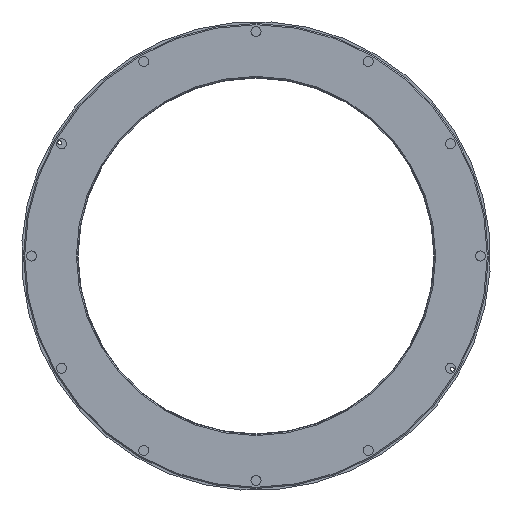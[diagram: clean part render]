
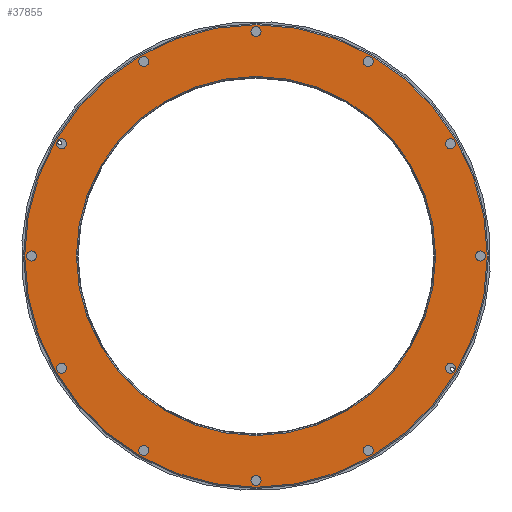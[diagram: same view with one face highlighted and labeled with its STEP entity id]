
A CAD part, left-side view. The second image highlights one B-rep face of the part: STEP entity #37855.
In plain terms, the highlighted planar face has unit normal (-1, 0, 0).
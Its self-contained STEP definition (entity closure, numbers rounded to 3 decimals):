
#33816=PLANE('',#101791);
#37855=ADVANCED_FACE('',(#44442,#44443,#44444,#44445,#44446,#44447,#44448,
#44449,#44450,#44451,#44452,#44453,#44454,#44455),#33816,.T.);
#44442=FACE_BOUND('',#45005,.T.);
#44443=FACE_BOUND('',#45006,.T.);
#44444=FACE_BOUND('',#45007,.T.);
#44445=FACE_BOUND('',#45008,.T.);
#44446=FACE_BOUND('',#45009,.T.);
#44447=FACE_BOUND('',#45010,.T.);
#44448=FACE_BOUND('',#45011,.T.);
#44449=FACE_BOUND('',#45012,.T.);
#44450=FACE_BOUND('',#45013,.T.);
#44451=FACE_BOUND('',#45014,.T.);
#44452=FACE_BOUND('',#45015,.T.);
#44453=FACE_BOUND('',#45016,.T.);
#44454=FACE_BOUND('',#45017,.T.);
#44455=FACE_BOUND('',#45018,.T.);
#45005=EDGE_LOOP('',(#50901));
#45006=EDGE_LOOP('',(#50902));
#45007=EDGE_LOOP('',(#50903));
#45008=EDGE_LOOP('',(#50904));
#45009=EDGE_LOOP('',(#50905));
#45010=EDGE_LOOP('',(#50906));
#45011=EDGE_LOOP('',(#50907));
#45012=EDGE_LOOP('',(#50908));
#45013=EDGE_LOOP('',(#50909));
#45014=EDGE_LOOP('',(#50910));
#45015=EDGE_LOOP('',(#50911));
#45016=EDGE_LOOP('',(#50912));
#45017=EDGE_LOOP('',(#50913));
#45018=EDGE_LOOP('',(#50914));
#50901=ORIENTED_EDGE('',*,*,#86253,.T.);
#50902=ORIENTED_EDGE('',*,*,#86254,.T.);
#50903=ORIENTED_EDGE('',*,*,#86255,.T.);
#50904=ORIENTED_EDGE('',*,*,#86256,.T.);
#50905=ORIENTED_EDGE('',*,*,#86257,.T.);
#50906=ORIENTED_EDGE('',*,*,#86258,.T.);
#50907=ORIENTED_EDGE('',*,*,#86259,.T.);
#50908=ORIENTED_EDGE('',*,*,#86260,.T.);
#50909=ORIENTED_EDGE('',*,*,#86261,.T.);
#50910=ORIENTED_EDGE('',*,*,#86262,.T.);
#50911=ORIENTED_EDGE('',*,*,#86263,.T.);
#50912=ORIENTED_EDGE('',*,*,#86264,.T.);
#50913=ORIENTED_EDGE('',*,*,#86265,.T.);
#50914=ORIENTED_EDGE('',*,*,#86252,.T.);
#77580=VERTEX_POINT('',#135179);
#77581=VERTEX_POINT('',#135182);
#77582=VERTEX_POINT('',#135184);
#77583=VERTEX_POINT('',#135186);
#77584=VERTEX_POINT('',#135188);
#77585=VERTEX_POINT('',#135190);
#77586=VERTEX_POINT('',#135192);
#77587=VERTEX_POINT('',#135194);
#77588=VERTEX_POINT('',#135196);
#77589=VERTEX_POINT('',#135198);
#77590=VERTEX_POINT('',#135200);
#77591=VERTEX_POINT('',#135202);
#77592=VERTEX_POINT('',#135204);
#77593=VERTEX_POINT('',#135206);
#86252=EDGE_CURVE('',#77580,#77580,#99594,.T.);
#86253=EDGE_CURVE('',#77581,#77581,#99595,.T.);
#86254=EDGE_CURVE('',#77582,#77582,#99596,.T.);
#86255=EDGE_CURVE('',#77583,#77583,#99597,.T.);
#86256=EDGE_CURVE('',#77584,#77584,#99598,.T.);
#86257=EDGE_CURVE('',#77585,#77585,#99599,.T.);
#86258=EDGE_CURVE('',#77586,#77586,#99600,.T.);
#86259=EDGE_CURVE('',#77587,#77587,#99601,.T.);
#86260=EDGE_CURVE('',#77588,#77588,#99602,.T.);
#86261=EDGE_CURVE('',#77589,#77589,#99603,.T.);
#86262=EDGE_CURVE('',#77590,#77590,#99604,.T.);
#86263=EDGE_CURVE('',#77591,#77591,#99605,.T.);
#86264=EDGE_CURVE('',#77592,#77592,#99606,.T.);
#86265=EDGE_CURVE('',#77593,#77593,#99607,.T.);
#99594=CIRCLE('',#101776,44.8);
#99595=CIRCLE('',#101778,57.7);
#99596=CIRCLE('',#101779,1.25);
#99597=CIRCLE('',#101780,1.25);
#99598=CIRCLE('',#101781,1.25);
#99599=CIRCLE('',#101782,1.25);
#99600=CIRCLE('',#101783,1.25);
#99601=CIRCLE('',#101784,1.25);
#99602=CIRCLE('',#101785,1.25);
#99603=CIRCLE('',#101786,1.25);
#99604=CIRCLE('',#101787,1.25);
#99605=CIRCLE('',#101788,1.25);
#99606=CIRCLE('',#101789,1.25);
#99607=CIRCLE('',#101790,1.25);
#101776=AXIS2_PLACEMENT_3D('',#135178,#109348,#109349);
#101778=AXIS2_PLACEMENT_3D('',#135181,#109352,#109353);
#101779=AXIS2_PLACEMENT_3D('',#135183,#109354,#109355);
#101780=AXIS2_PLACEMENT_3D('',#135185,#109356,#109357);
#101781=AXIS2_PLACEMENT_3D('',#135187,#109358,#109359);
#101782=AXIS2_PLACEMENT_3D('',#135189,#109360,#109361);
#101783=AXIS2_PLACEMENT_3D('',#135191,#109362,#109363);
#101784=AXIS2_PLACEMENT_3D('',#135193,#109364,#109365);
#101785=AXIS2_PLACEMENT_3D('',#135195,#109366,#109367);
#101786=AXIS2_PLACEMENT_3D('',#135197,#109368,#109369);
#101787=AXIS2_PLACEMENT_3D('',#135199,#109370,#109371);
#101788=AXIS2_PLACEMENT_3D('',#135201,#109372,#109373);
#101789=AXIS2_PLACEMENT_3D('',#135203,#109374,#109375);
#101790=AXIS2_PLACEMENT_3D('',#135205,#109376,#109377);
#101791=AXIS2_PLACEMENT_3D('',#135207,#109378,#109379);
#109348=DIRECTION('',(1.,0.,0.));
#109349=DIRECTION('',(0.,0.,-1.));
#109352=DIRECTION('',(-1.,0.,0.));
#109353=DIRECTION('',(0.,0.,1.));
#109354=DIRECTION('',(1.,0.,0.));
#109355=DIRECTION('',(0.,1.,0.));
#109356=DIRECTION('',(1.,0.,0.));
#109357=DIRECTION('',(0.,0.866,0.5));
#109358=DIRECTION('',(1.,0.,0.));
#109359=DIRECTION('',(0.,0.5,0.866));
#109360=DIRECTION('',(1.,0.,0.));
#109361=DIRECTION('',(0.,0.,1.));
#109362=DIRECTION('',(1.,0.,0.));
#109363=DIRECTION('',(0.,-0.5,0.866));
#109364=DIRECTION('',(1.,0.,0.));
#109365=DIRECTION('',(0.,-0.866,0.5));
#109366=DIRECTION('',(1.,0.,0.));
#109367=DIRECTION('',(0.,-1.,0.));
#109368=DIRECTION('',(1.,0.,0.));
#109369=DIRECTION('',(0.,-0.866,-0.5));
#109370=DIRECTION('',(1.,0.,0.));
#109371=DIRECTION('',(0.,-0.5,-0.866));
#109372=DIRECTION('',(1.,0.,0.));
#109373=DIRECTION('',(0.,0.,-1.));
#109374=DIRECTION('',(1.,0.,0.));
#109375=DIRECTION('',(0.,0.5,-0.866));
#109376=DIRECTION('',(1.,0.,0.));
#109377=DIRECTION('',(0.,0.866,-0.5));
#109378=DIRECTION('',(-1.,0.,0.));
#109379=DIRECTION('',(0.,0.,1.));
#135178=CARTESIAN_POINT('',(22.7,0.,0.));
#135179=CARTESIAN_POINT('',(22.7,0.,-44.8));
#135181=CARTESIAN_POINT('',(22.7,0.,0.));
#135182=CARTESIAN_POINT('',(22.7,0.,57.7));
#135183=CARTESIAN_POINT('',(22.7,-56.,0.));
#135184=CARTESIAN_POINT('',(22.7,-54.75,0.));
#135185=CARTESIAN_POINT('',(22.7,-48.497,-28.));
#135186=CARTESIAN_POINT('',(22.7,-47.415,-27.375));
#135187=CARTESIAN_POINT('',(22.7,-28.,-48.497));
#135188=CARTESIAN_POINT('',(22.7,-27.375,-47.415));
#135189=CARTESIAN_POINT('',(22.7,0.,-56.));
#135190=CARTESIAN_POINT('',(22.7,0.,-54.75));
#135191=CARTESIAN_POINT('',(22.7,28.,-48.497));
#135192=CARTESIAN_POINT('',(22.7,27.375,-47.415));
#135193=CARTESIAN_POINT('',(22.7,48.497,-28.));
#135194=CARTESIAN_POINT('',(22.7,47.415,-27.375));
#135195=CARTESIAN_POINT('',(22.7,56.,0.));
#135196=CARTESIAN_POINT('',(22.7,54.75,0.));
#135197=CARTESIAN_POINT('',(22.7,48.497,28.));
#135198=CARTESIAN_POINT('',(22.7,47.415,27.375));
#135199=CARTESIAN_POINT('',(22.7,28.,48.497));
#135200=CARTESIAN_POINT('',(22.7,27.375,47.415));
#135201=CARTESIAN_POINT('',(22.7,0.,56.));
#135202=CARTESIAN_POINT('',(22.7,0.,54.75));
#135203=CARTESIAN_POINT('',(22.7,-28.,48.497));
#135204=CARTESIAN_POINT('',(22.7,-27.375,47.415));
#135205=CARTESIAN_POINT('',(22.7,-48.497,28.));
#135206=CARTESIAN_POINT('',(22.7,-47.415,27.375));
#135207=CARTESIAN_POINT('',(22.7,0.,0.));
